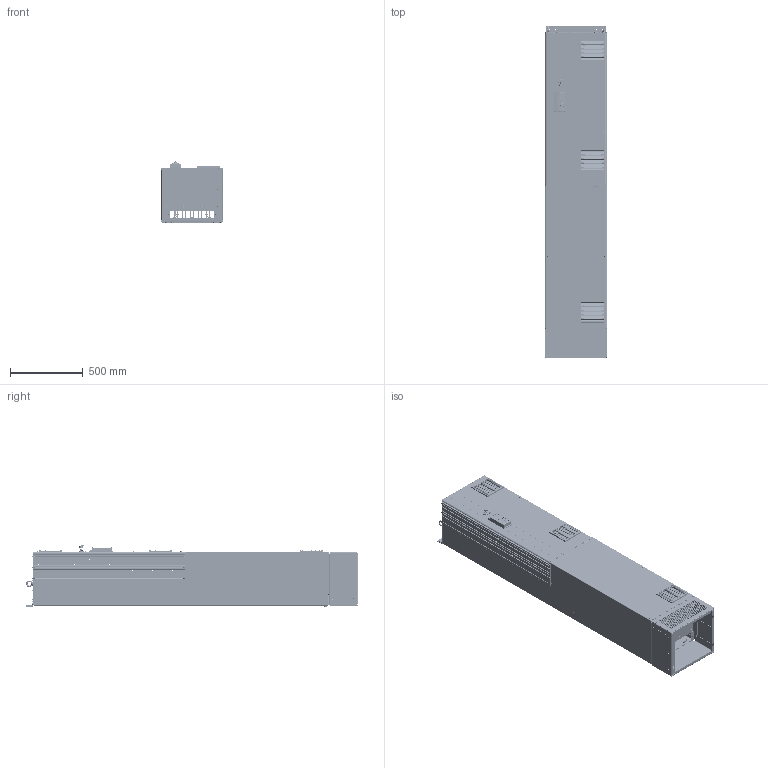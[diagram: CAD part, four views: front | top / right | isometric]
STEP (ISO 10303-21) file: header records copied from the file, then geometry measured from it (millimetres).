
FILE_DESCRIPTION((''),'2;1');
FILE_NAME('P454-1042_ASM','2014-08-05T',('U251643'),('Danfoss Power Electronics'),'PRO/ENGINEER BY PARAMETRIC TECHNOLOGY CORPORATION, 2013050','PRO/ENGINEER BY PARAMETRIC TECHNOLOGY CORPORATION, 2013050','');
FILE_SCHEMA(('CONFIG_CONTROL_DESIGN','GEOMETRIC_VALIDATION_PROPERTIES_MIM'));
Products named in the file (204): 177G6034; FH-M5-12-ZI; FH-M8-20-ZI; SS-M5-2-ZI; S-M10-1-ZI; 177G6034_ASM; 177G6090; TPS-5MM-10; 177G6090_ASM; 177G6079; PEM_N10-M5-1-ZI; 177G6079_ASM; 177G5941; 177G5940; 26513; P454-1198_ASM; 177G6036; FH-M5-10-ZI; FH-M5-8-ZI; FH-M8-15-ZI; HFH-M10-20-ZI; 177G6036_ASM; 177G6028; SS-M5-1-ZI; 177G6028_ASM; 177G6029; 177G6029_ASM; SF-5-16-ZI; 177G6035_ASM; 177G5925; 681X9143; 26516; 177G6690; 177G6690_ASM; 177G6691; 177G3998; 177G3998_ASM; 177G5899; FH-M5-15-ZI; HFH-M10-35-ZI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
Assembly tree (731 placements, depth 6):
  P454-1042_ASM
    177G6034_ASM
      177G6034
      FH-M5-12-ZI  x25
      FH-M8-20-ZI  x2
      SS-M5-2-ZI  x30
      S-M10-1-ZI  x2
    P454-1198_ASM
      177G6090_ASM
        177G6090
        FH-M5-12-ZI  x2
        SS-M5-2-ZI  x2
        TPS-5MM-10  x2
      177G6079_ASM
        177G6079
        PEM_N10-M5-1-ZI
      177G5941
      177G5940
      26513  x2
    26513  x42
    177G6035_ASM
      177G6036_ASM
        177G6036
        FH-M5-10-ZI  x9
        FH-M5-8-ZI  x5
        FH-M5-12-ZI  x3
        FH-M8-15-ZI  x2
        SS-M5-2-ZI  x6
        HFH-M10-20-ZI  x4
      177G6028_ASM
        177G6028
        SS-M5-1-ZI
      177G6029_ASM
        177G6029
        SS-M5-1-ZI
      SF-5-16-ZI  x4
    177G5925  x2
    681X9143  x35
    26516  x6
    177G6690_ASM
      177G6690
    177G6691
    177G3998_ASM
      177G3998
    177G5899_ASM  x3
      177G5899
      FH-M5-15-ZI
      HFH-M10-35-ZI
    177A0062
    177G4265
    177A0064
    177A0076
    177G5919_ASM
      177G5919
      HFH-M10-35-ZI
    177G5900_ASM
      177G5900
      HFH-M10-35-ZI
    177G6037_ASM
      177G6037
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Bounding box: 424.6 x 2283.5 x 421.29 mm (x, y, z)
Volume: 23316740.5 mm3; surface area: 16075395.5 mm2
Topology: 706 solids, 770 shells, 36727 faces, 96354 edges, 61935 vertices
Faces by surface type: plane 22232, cylinder 8819, bspline 2219, cone 1762, torus 1272, sphere 211, revolution 168, extrusion 44
Entity records: 859896 total; most frequent: CARTESIAN_POINT 189445, ORIENTED_EDGE 114374, DIRECTION 107473, EDGE_CURVE 57674, VECTOR 41297, LINE 41269, PRESENTATION_STYLE_ASSIGNMENT 37503, STYLED_ITEM 37400
